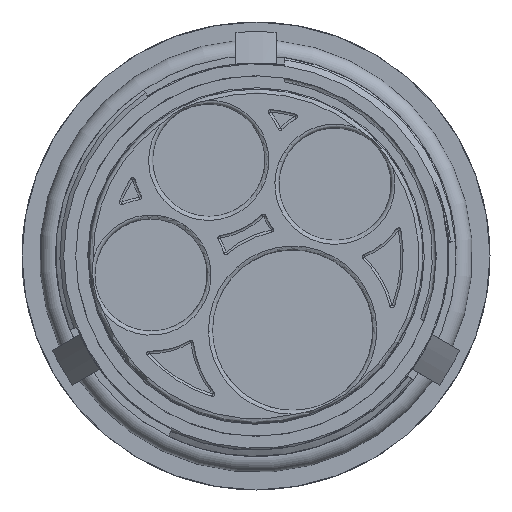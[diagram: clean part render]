
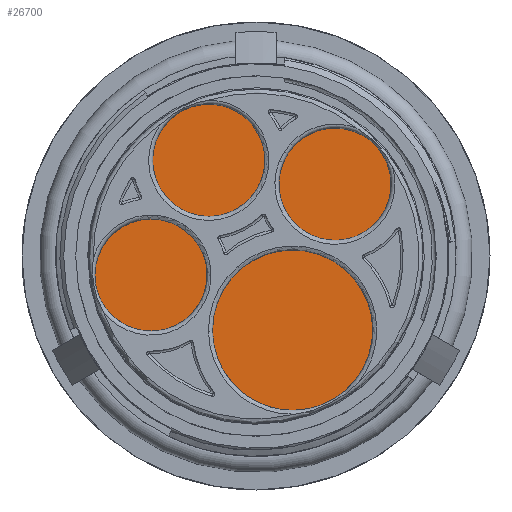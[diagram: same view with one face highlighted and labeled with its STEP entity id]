
A CAD part, front view. The second image highlights one B-rep face of the part: STEP entity #26700.
In plain terms, the highlighted planar face has unit normal (0, -1, 0).
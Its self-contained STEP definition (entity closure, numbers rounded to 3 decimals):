
#5608=PLANE('',#29134);
#6027=FACE_BOUND('',#8533,.T.);
#6028=FACE_BOUND('',#8534,.T.);
#6029=FACE_BOUND('',#8535,.T.);
#6848=FACE_OUTER_BOUND('',#8532,.T.);
#8532=EDGE_LOOP('',(#21266));
#8533=EDGE_LOOP('',(#21267));
#8534=EDGE_LOOP('',(#21268));
#8535=EDGE_LOOP('',(#21269));
#10379=CIRCLE('',#29122,1.9);
#10381=CIRCLE('',#29125,1.9);
#10383=CIRCLE('',#29128,1.9);
#10386=CIRCLE('',#29132,23.);
#12164=VERTEX_POINT('',#47861);
#12166=VERTEX_POINT('',#47866);
#12168=VERTEX_POINT('',#47871);
#12171=VERTEX_POINT('',#47878);
#15418=EDGE_CURVE('',#12164,#12164,#10379,.T.);
#15420=EDGE_CURVE('',#12166,#12166,#10381,.T.);
#15422=EDGE_CURVE('',#12168,#12168,#10383,.T.);
#15425=EDGE_CURVE('',#12171,#12171,#10386,.T.);
#21266=ORIENTED_EDGE('',*,*,#15425,.F.);
#21267=ORIENTED_EDGE('',*,*,#15418,.T.);
#21268=ORIENTED_EDGE('',*,*,#15420,.T.);
#21269=ORIENTED_EDGE('',*,*,#15422,.T.);
#26700=ADVANCED_FACE('',(#6848,#6027,#6028,#6029),#5608,.T.);
#29122=AXIS2_PLACEMENT_3D('',#47862,#33630,#33631);
#29125=AXIS2_PLACEMENT_3D('',#47867,#33636,#33637);
#29128=AXIS2_PLACEMENT_3D('',#47872,#33642,#33643);
#29132=AXIS2_PLACEMENT_3D('',#47879,#33650,#33651);
#29134=AXIS2_PLACEMENT_3D('',#47881,#33654,#33655);
#33630=DIRECTION('center_axis',(0.,1.,0.));
#33631=DIRECTION('ref_axis',(-1.,0.,0.));
#33636=DIRECTION('center_axis',(0.,1.,0.));
#33637=DIRECTION('ref_axis',(-1.,0.,0.));
#33642=DIRECTION('center_axis',(0.,1.,0.));
#33643=DIRECTION('ref_axis',(-1.,0.,0.));
#33650=DIRECTION('center_axis',(0.,1.,0.));
#33651=DIRECTION('ref_axis',(-1.,0.,0.));
#33654=DIRECTION('center_axis',(0.,-1.,0.));
#33655=DIRECTION('ref_axis',(0.,0.,-1.));
#47861=CARTESIAN_POINT('',(-15.544,-1.2,0.826));
#47862=CARTESIAN_POINT('Origin',(-17.444,-1.2,0.826));
#47866=CARTESIAN_POINT('',(11.754,-1.2,14.259));
#47867=CARTESIAN_POINT('Origin',(9.854,-1.2,14.259));
#47871=CARTESIAN_POINT('',(18.489,-1.2,-8.349));
#47872=CARTESIAN_POINT('Origin',(16.589,-1.2,-8.349));
#47878=CARTESIAN_POINT('',(-23.,-1.2,0.));
#47879=CARTESIAN_POINT('Origin',(0.,-1.2,0.));
#47881=CARTESIAN_POINT('Origin',(-11.5,-1.2,0.));
